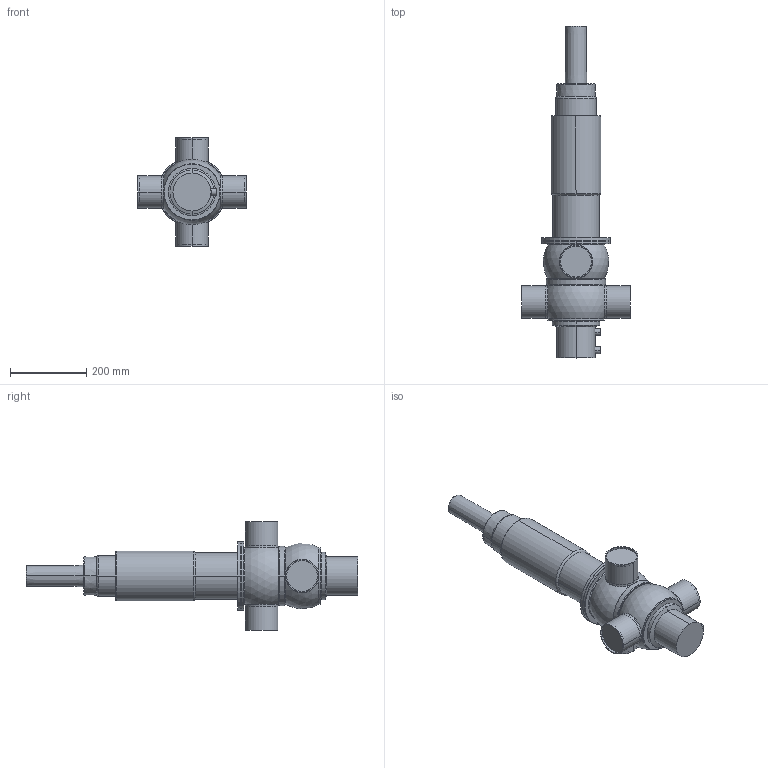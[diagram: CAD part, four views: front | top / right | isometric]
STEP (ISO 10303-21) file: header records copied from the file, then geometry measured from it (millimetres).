
FILE_DESCRIPTION(('Creo Elements/Direct Modeling STEP Export'),'2;1');
FILE_NAME('D44SL-80_prox..stp','2019-09-04T 9:52:04',(''),(''),'PTC Creo Elements/Direct Modeling STEP processor for AP214 (Solid Model)','PTC Creo Elements/Direct Modeling 19.0B 21-Mar-2015 (C) Parametric Technology GmbH','');
FILE_SCHEMA(('AUTOMOTIVE_DESIGN { 1 0 10303 214 1 1 1 1 }'));
Length unit declared in the file: millimetre
Products named in the file (5): D4_Prox._holder.; actuator_D4SL-125_yoke; drain_pipe_92; housing_D44-80; D44SL-80_prox.
Assembly tree (4 placements, depth 2):
  D44SL-80_prox.
    housing_D44-80
    drain_pipe_92
    actuator_D4SL-125_yoke
    D4_Prox._holder.
Bounding box: 285 x 870.5 x 285 mm (x, y, z)
Volume: 11968223.8 mm3; surface area: 560243.3 mm2
Topology: 4 solids, 4 shells, 139 faces, 298 edges, 181 vertices
Faces by surface type: cylinder 52, torus 42, plane 28, cone 12, sphere 5
Entity records: 4303 total; most frequent: CARTESIAN_POINT 1393, DIRECTION 596, ORIENTED_EDGE 592, EDGE_CURVE 296, AXIS2_PLACEMENT_3D 266, VERTEX_POINT 181, EDGE_LOOP 155, FACE_OUTER_BOUND 139
